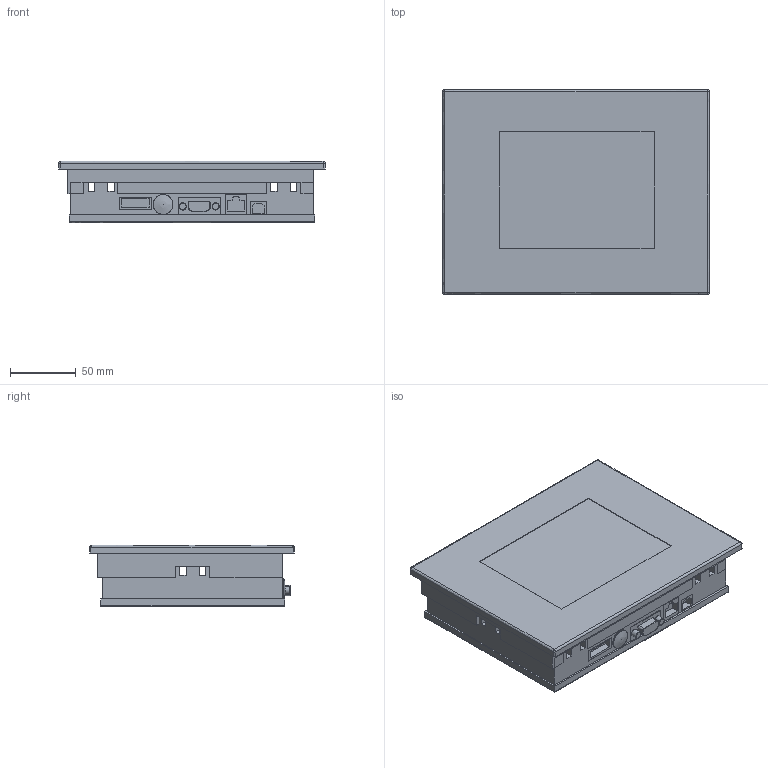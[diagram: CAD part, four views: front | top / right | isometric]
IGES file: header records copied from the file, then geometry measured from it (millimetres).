
Global section: file name: Filename.iges; native system: Open CASCADE 7.3; preprocessor: Open CASCADE IGES processor 7.3; date: 20191213.081548; units: millimetre
Bounding box: 203 x 156 x 47 mm (x, y, z)
Surface area: 375631.9 mm2 (no closed solid volume)
Topology: 0 solids, 0 shells, 254 faces, 1221 edges, 1197 vertices
Faces by surface type: plane 216, revolution 34, bspline 4
